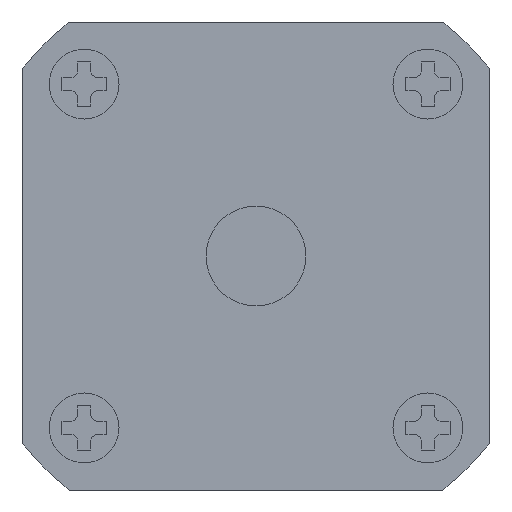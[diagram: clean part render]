
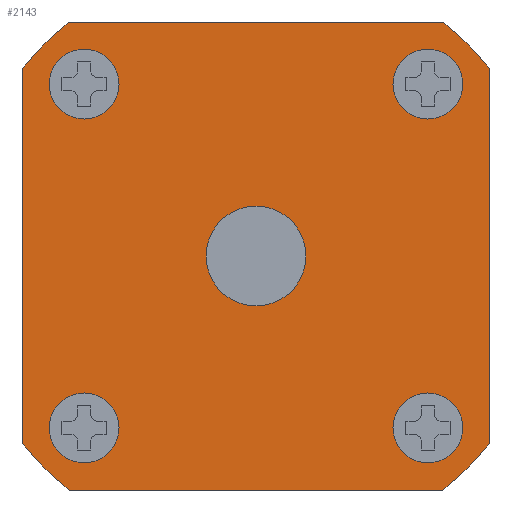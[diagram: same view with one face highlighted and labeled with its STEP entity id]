
A CAD part, front view. The second image highlights one B-rep face of the part: STEP entity #2143.
In plain terms, the highlighted planar face has unit normal (0, -1, 0).
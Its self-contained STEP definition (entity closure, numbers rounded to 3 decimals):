
#83=CARTESIAN_POINT('',(15.5,0.,15.5));
#84=DIRECTION('',(0.,-1.,0.));
#85=DIRECTION('',(0.,0.,-1.));
#86=AXIS2_PLACEMENT_3D('',#83,#84,#85);
#88=CARTESIAN_POINT('',(15.5,0.,15.5));
#89=DIRECTION('',(0.,-1.,0.));
#90=DIRECTION('',(0.,0.,1.));
#91=AXIS2_PLACEMENT_3D('',#88,#89,#90);
#93=CARTESIAN_POINT('',(-15.5,0.,-15.5));
#94=DIRECTION('',(0.,-1.,0.));
#95=DIRECTION('',(0.,0.,1.));
#96=AXIS2_PLACEMENT_3D('',#93,#94,#95);
#98=CARTESIAN_POINT('',(-15.5,0.,-15.5));
#99=DIRECTION('',(0.,-1.,0.));
#100=DIRECTION('',(0.,0.,-1.));
#101=AXIS2_PLACEMENT_3D('',#98,#99,#100);
#103=CARTESIAN_POINT('',(15.5,0.,-15.5));
#104=DIRECTION('',(0.,-1.,0.));
#105=DIRECTION('',(-1.,0.,0.));
#106=AXIS2_PLACEMENT_3D('',#103,#104,#105);
#108=CARTESIAN_POINT('',(15.5,0.,-15.5));
#109=DIRECTION('',(0.,-1.,0.));
#110=DIRECTION('',(1.,0.,0.));
#111=AXIS2_PLACEMENT_3D('',#108,#109,#110);
#113=CARTESIAN_POINT('',(0.,0.,0.));
#114=DIRECTION('',(0.,-1.,0.));
#115=DIRECTION('',(-1.,0.,0.));
#116=AXIS2_PLACEMENT_3D('',#113,#114,#115);
#118=CARTESIAN_POINT('',(0.,0.,0.));
#119=DIRECTION('',(0.,-1.,0.));
#120=DIRECTION('',(1.,0.,0.));
#121=AXIS2_PLACEMENT_3D('',#118,#119,#120);
#123=DIRECTION('',(1.,0.,0.));
#124=VECTOR('',#123,33.692);
#125=CARTESIAN_POINT('',(-16.846,0.,21.1));
#126=LINE('',#125,#124);
#127=CARTESIAN_POINT('',(0.,0.,0.));
#128=DIRECTION('',(0.,1.,0.));
#129=DIRECTION('',(0.624,0.,0.781));
#130=AXIS2_PLACEMENT_3D('',#127,#128,#129);
#132=DIRECTION('',(0.,0.,-1.));
#133=VECTOR('',#132,33.691);
#134=CARTESIAN_POINT('',(21.1,0.,16.846));
#135=LINE('',#134,#133);
#136=CARTESIAN_POINT('',(0.,0.,0.));
#137=DIRECTION('',(0.,1.,0.));
#138=DIRECTION('',(0.781,0.,-0.624));
#139=AXIS2_PLACEMENT_3D('',#136,#137,#138);
#141=DIRECTION('',(-1.,0.,0.));
#142=VECTOR('',#141,33.691);
#143=CARTESIAN_POINT('',(16.846,0.,-21.1));
#144=LINE('',#143,#142);
#145=CARTESIAN_POINT('',(0.,0.,0.));
#146=DIRECTION('',(0.,1.,0.));
#147=DIRECTION('',(-0.624,0.,-0.781));
#148=AXIS2_PLACEMENT_3D('',#145,#146,#147);
#150=DIRECTION('',(0.,0.,1.));
#151=VECTOR('',#150,33.692);
#152=CARTESIAN_POINT('',(-21.1,0.,-16.846));
#153=LINE('',#152,#151);
#154=CARTESIAN_POINT('',(0.,0.,0.));
#155=DIRECTION('',(0.,1.,0.));
#156=DIRECTION('',(-0.781,0.,0.624));
#157=AXIS2_PLACEMENT_3D('',#154,#155,#156);
#159=CARTESIAN_POINT('',(-15.5,0.,15.5));
#160=DIRECTION('',(0.,-1.,0.));
#161=DIRECTION('',(1.,0.,0.));
#162=AXIS2_PLACEMENT_3D('',#159,#160,#161);
#164=CARTESIAN_POINT('',(-15.5,0.,15.5));
#165=DIRECTION('',(0.,-1.,0.));
#166=DIRECTION('',(-1.,0.,0.));
#167=AXIS2_PLACEMENT_3D('',#164,#165,#166);
#1554=CARTESIAN_POINT('',(-16.846,0.,21.1));
#1555=CARTESIAN_POINT('',(16.846,0.,21.1));
#1556=VERTEX_POINT('',#1554);
#1557=VERTEX_POINT('',#1555);
#1558=CARTESIAN_POINT('',(21.1,0.,16.846));
#1559=VERTEX_POINT('',#1558);
#1560=CARTESIAN_POINT('',(21.1,0.,-16.846));
#1561=VERTEX_POINT('',#1560);
#1562=CARTESIAN_POINT('',(16.846,0.,-21.1));
#1563=VERTEX_POINT('',#1562);
#1564=CARTESIAN_POINT('',(-16.846,0.,-21.1));
#1565=VERTEX_POINT('',#1564);
#1566=CARTESIAN_POINT('',(-21.1,0.,-16.846));
#1567=VERTEX_POINT('',#1566);
#1568=CARTESIAN_POINT('',(-21.1,0.,16.846));
#1569=VERTEX_POINT('',#1568);
#1710=CARTESIAN_POINT('',(-4.5,0.,0.));
#1711=CARTESIAN_POINT('',(4.5,0.,0.));
#1712=VERTEX_POINT('',#1710);
#1713=VERTEX_POINT('',#1711);
#1718=CARTESIAN_POINT('',(12.35,0.,-15.5));
#1719=CARTESIAN_POINT('',(18.65,0.,-15.5));
#1720=VERTEX_POINT('',#1718);
#1721=VERTEX_POINT('',#1719);
#1990=CARTESIAN_POINT('',(-15.5,0.,-12.35));
#1991=VERTEX_POINT('',#1990);
#1992=CARTESIAN_POINT('',(-15.5,0.,-18.65));
#1993=VERTEX_POINT('',#1992);
#1994=CARTESIAN_POINT('',(-12.35,0.,15.5));
#1995=VERTEX_POINT('',#1994);
#1996=CARTESIAN_POINT('',(-18.65,0.,15.5));
#1997=VERTEX_POINT('',#1996);
#1998=CARTESIAN_POINT('',(15.5,0.,12.35));
#1999=VERTEX_POINT('',#1998);
#2000=CARTESIAN_POINT('',(15.5,0.,18.65));
#2001=VERTEX_POINT('',#2000);
#2091=CARTESIAN_POINT('',(0.,0.,0.));
#2092=DIRECTION('',(0.,1.,0.));
#2093=DIRECTION('',(1.,0.,0.));
#2094=AXIS2_PLACEMENT_3D('',#2091,#2092,#2093);
#2095=PLANE('',#2094);
#2097=ORIENTED_EDGE('',*,*,#2096,.T.);
#2099=ORIENTED_EDGE('',*,*,#2098,.T.);
#2101=ORIENTED_EDGE('',*,*,#2100,.T.);
#2103=ORIENTED_EDGE('',*,*,#2102,.T.);
#2105=ORIENTED_EDGE('',*,*,#2104,.T.);
#2107=ORIENTED_EDGE('',*,*,#2106,.T.);
#2109=ORIENTED_EDGE('',*,*,#2108,.T.);
#2111=ORIENTED_EDGE('',*,*,#2110,.T.);
#2112=EDGE_LOOP('',(#2097,#2099,#2101,#2103,#2105,#2107,#2109,#2111));
#2113=FACE_OUTER_BOUND('',#2112,.F.);
#2115=ORIENTED_EDGE('',*,*,#2114,.T.);
#2117=ORIENTED_EDGE('',*,*,#2116,.T.);
#2118=EDGE_LOOP('',(#2115,#2117));
#2119=FACE_BOUND('',#2118,.F.);
#2121=ORIENTED_EDGE('',*,*,#2120,.T.);
#2123=ORIENTED_EDGE('',*,*,#2122,.T.);
#2124=EDGE_LOOP('',(#2121,#2123));
#2125=FACE_BOUND('',#2124,.F.);
#2127=ORIENTED_EDGE('',*,*,#2126,.T.);
#2129=ORIENTED_EDGE('',*,*,#2128,.T.);
#2130=EDGE_LOOP('',(#2127,#2129));
#2131=FACE_BOUND('',#2130,.F.);
#2133=ORIENTED_EDGE('',*,*,#2132,.T.);
#2135=ORIENTED_EDGE('',*,*,#2134,.T.);
#2136=EDGE_LOOP('',(#2133,#2135));
#2137=FACE_BOUND('',#2136,.F.);
#2138=ORIENTED_EDGE('',*,*,#2081,.T.);
#2140=ORIENTED_EDGE('',*,*,#2139,.T.);
#2141=EDGE_LOOP('',(#2138,#2140));
#2142=FACE_BOUND('',#2141,.F.);
#2143=ADVANCED_FACE('',(#2113,#2119,#2125,#2131,#2137,#2142),#2095,.F.);
#87=CIRCLE('',#86,3.15);
#92=CIRCLE('',#91,3.15);
#97=CIRCLE('',#96,3.15);
#102=CIRCLE('',#101,3.15);
#107=CIRCLE('',#106,3.15);
#112=CIRCLE('',#111,3.15);
#117=CIRCLE('',#116,4.5);
#122=CIRCLE('',#121,4.5);
#131=CIRCLE('',#130,27.);
#140=CIRCLE('',#139,27.);
#149=CIRCLE('',#148,27.);
#158=CIRCLE('',#157,27.);
#163=CIRCLE('',#162,3.15);
#168=CIRCLE('',#167,3.15);
#2081=EDGE_CURVE('',#1995,#1997,#163,.T.);
#2096=EDGE_CURVE('',#1556,#1557,#126,.T.);
#2098=EDGE_CURVE('',#1557,#1559,#131,.T.);
#2100=EDGE_CURVE('',#1559,#1561,#135,.T.);
#2102=EDGE_CURVE('',#1561,#1563,#140,.T.);
#2104=EDGE_CURVE('',#1563,#1565,#144,.T.);
#2106=EDGE_CURVE('',#1565,#1567,#149,.T.);
#2108=EDGE_CURVE('',#1567,#1569,#153,.T.);
#2110=EDGE_CURVE('',#1569,#1556,#158,.T.);
#2114=EDGE_CURVE('',#1991,#1993,#97,.T.);
#2116=EDGE_CURVE('',#1993,#1991,#102,.T.);
#2120=EDGE_CURVE('',#1720,#1721,#107,.T.);
#2122=EDGE_CURVE('',#1721,#1720,#112,.T.);
#2126=EDGE_CURVE('',#1712,#1713,#117,.T.);
#2128=EDGE_CURVE('',#1713,#1712,#122,.T.);
#2132=EDGE_CURVE('',#1999,#2001,#87,.T.);
#2134=EDGE_CURVE('',#2001,#1999,#92,.T.);
#2139=EDGE_CURVE('',#1997,#1995,#168,.T.);
